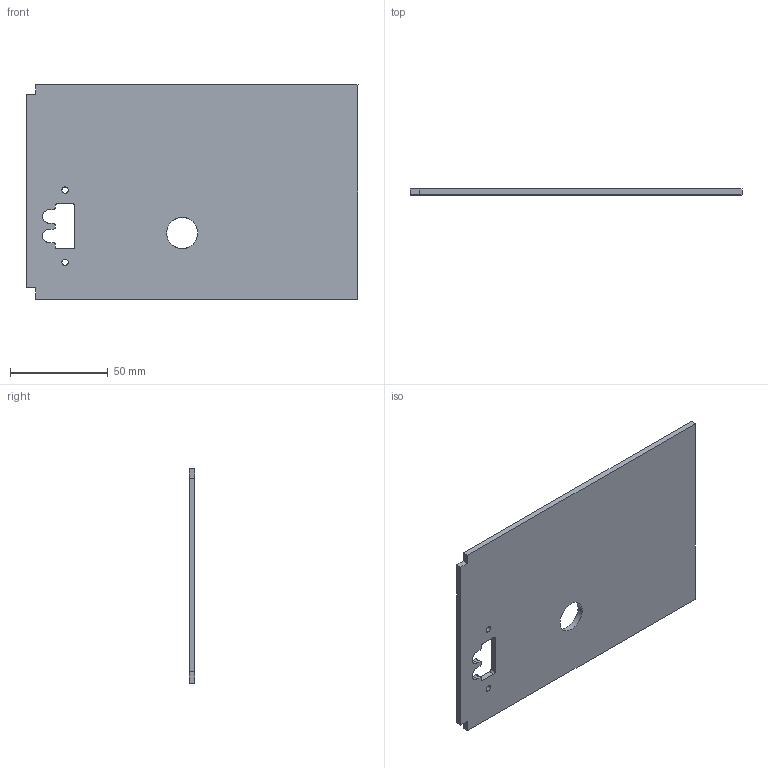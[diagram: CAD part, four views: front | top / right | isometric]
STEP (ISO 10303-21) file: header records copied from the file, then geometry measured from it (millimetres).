
FILE_DESCRIPTION(/* description */ (''),/* implementation_level */ '2;1');
FILE_NAME(/* name */ '3.frame-top#3.3#la-pan-1',/* time_stamp */ '2014-12-01T20:12:12+01:00',/* author */ (''),/* organization */ (''),/* preprocessor_version */ 'ST-DEVELOPER v14',/* originating_system */ '',/* authorisation */ '');
FILE_SCHEMA (('AUTOMOTIVE_DESIGN'));
Length unit declared in the file: millimetre
Products named in the file (1): Document
Bounding box: 170 x 3 x 110 mm (x, y, z)
Volume: 54348.8 mm3; surface area: 38372.5 mm2
Topology: 1 solids, 1 shells, 36 faces, 102 edges, 68 vertices
Faces by surface type: plane 20, bspline 16
Entity records: 2333 total; most frequent: CARTESIAN_POINT 1006, B_SPLINE_CURVE_WITH_KNOTS 225, ORIENTED_EDGE 204, PCURVE 204, DEFINITIONAL_REPRESENTATION 204, SURFACE_CURVE 102, EDGE_CURVE 102, VERTEX_POINT 68
